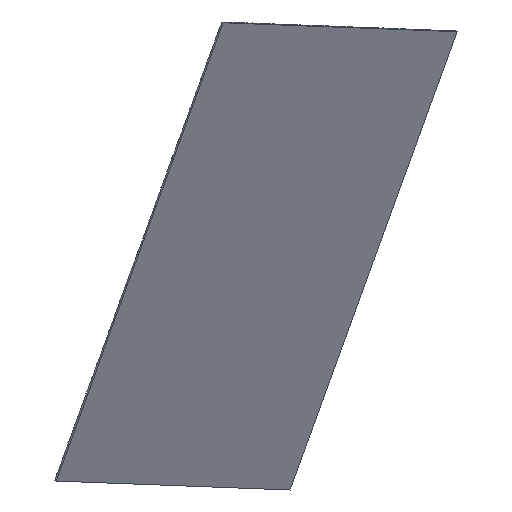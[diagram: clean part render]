
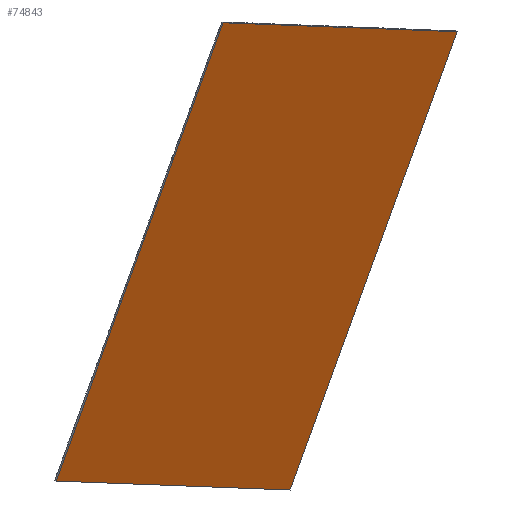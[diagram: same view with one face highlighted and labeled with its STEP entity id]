
A CAD part, isometric view. The second image highlights one B-rep face of the part: STEP entity #74843.
In plain terms, the highlighted planar face has unit normal (0, -1, 0).
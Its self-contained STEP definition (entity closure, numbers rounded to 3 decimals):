
#1908=PLANE('',#77888);
#5175=FACE_OUTER_BOUND('',#10002,.T.);
#10002=EDGE_LOOP('',(#56364,#56365,#56366,#56367));
#15071=LINE('',#114984,#18447);
#15236=LINE('',#117319,#18612);
#15258=LINE('',#117502,#18634);
#15259=LINE('',#117503,#18635);
#18447=VECTOR('',#81604,10.);
#18612=VECTOR('',#81901,10.);
#18634=VECTOR('',#81925,10.);
#18635=VECTOR('',#81926,10.);
#31944=VERTEX_POINT('',#114981);
#31945=VERTEX_POINT('',#114983);
#32258=VERTEX_POINT('',#117318);
#32298=VERTEX_POINT('',#117501);
#41101=EDGE_CURVE('',#31945,#31944,#15071,.T.);
#41623=EDGE_CURVE('',#32258,#31945,#15236,.T.);
#41665=EDGE_CURVE('',#31944,#32298,#15258,.T.);
#41666=EDGE_CURVE('',#32298,#32258,#15259,.T.);
#56364=ORIENTED_EDGE('',*,*,#41665,.T.);
#56365=ORIENTED_EDGE('',*,*,#41666,.T.);
#56366=ORIENTED_EDGE('',*,*,#41623,.T.);
#56367=ORIENTED_EDGE('',*,*,#41101,.T.);
#74843=ADVANCED_FACE('',(#5175),#1908,.T.);
#77888=AXIS2_PLACEMENT_3D('',#117500,#81923,#81924);
#81604=DIRECTION('',(-0.47,0.,-0.882));
#81901=DIRECTION('',(-0.882,0.,0.47));
#81923=DIRECTION('center_axis',(0.,-1.,0.));
#81924=DIRECTION('ref_axis',(0.882,0.,-0.47));
#81925=DIRECTION('',(0.882,0.,-0.47));
#81926=DIRECTION('',(0.47,0.,0.882));
#114981=CARTESIAN_POINT('',(-48.504,-1.25,-107.9));
#114983=CARTESIAN_POINT('',(71.185,-1.25,116.636));
#114984=CARTESIAN_POINT('',(38.499,-1.25,55.316));
#117318=CARTESIAN_POINT('',(238.906,-1.25,27.232));
#117319=CARTESIAN_POINT('',(148.999,-1.25,75.157));
#117500=CARTESIAN_POINT('Origin',(90.607,-1.25,-142.681));
#117501=CARTESIAN_POINT('',(119.217,-1.25,-197.304));
#117502=CARTESIAN_POINT('',(41.403,-1.25,-155.825));
#117503=CARTESIAN_POINT('',(151.903,-1.25,-135.984));
